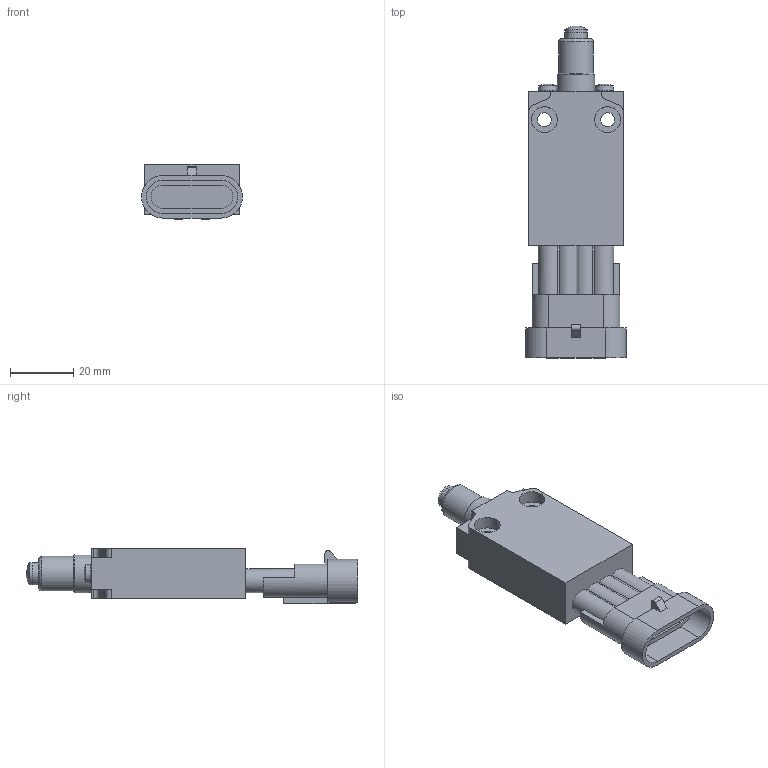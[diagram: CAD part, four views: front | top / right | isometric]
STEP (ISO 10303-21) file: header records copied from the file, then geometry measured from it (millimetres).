
FILE_DESCRIPTION(/* description */ (''),/* implementation_level */ '2;1');
FILE_NAME(/* name */ 'C:\Users\servizio.tecnico\Desktop\CADENAS\3D\EP1_STP\STP_EP1_G16A.stp',/* time_stamp */ '2017-09-04T09:39:51+02:00',/* author */ ('servizio.tecnico'),/* organization */ (''),/* preprocessor_version */ 'ST-DEVELOPER v16.1',/* originating_system */ 'Autodesk Inventor 2016',/* authorisation */ '');
FILE_SCHEMA (('AUTOMOTIVE_DESIGN { 1 0 10303 214 3 1 1 }'));
Length unit declared in the file: millimetre
Products named in the file (3): Product; EP1G16-A; BASE ASSI 
Assembly tree (2 placements, depth 3):
  BASE ASSI 
    EP1G16-A
      Product
Bounding box: 32 x 105.2 x 17.5 mm (x, y, z)
Volume: 30019.8 mm3; surface area: 12666.9 mm2
Topology: 3 solids, 3 shells, 154 faces, 396 edges, 259 vertices
Faces by surface type: plane 90, cylinder 51, cone 7, torus 3, sphere 3
Full cylindrical faces by diameter (mm): 4.4 x2, 5 x2, 7 x3, 7.1 x1, 8.2 x4, 11 x1, 12 x1
Entity records: 4646 total; most frequent: DIRECTION 798, CARTESIAN_POINT 783, ORIENTED_EDGE 722, EDGE_CURVE 361, AXIS2_PLACEMENT_3D 286, VERTEX_POINT 247, LINE 226, VECTOR 226
